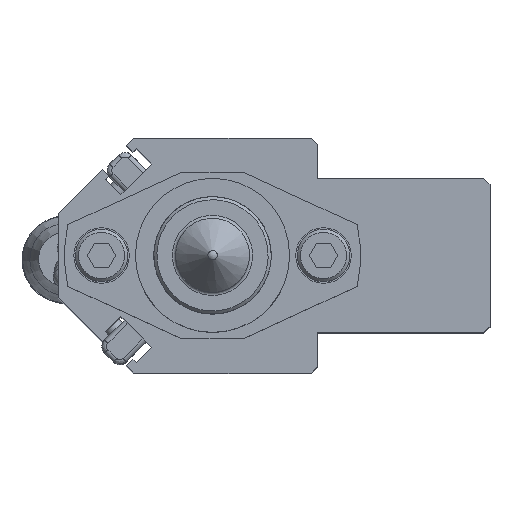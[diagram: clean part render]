
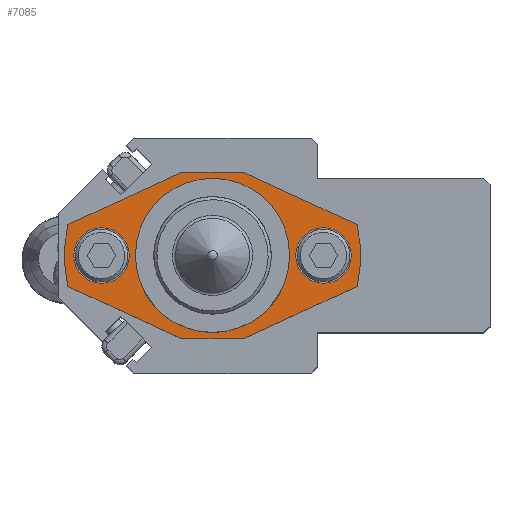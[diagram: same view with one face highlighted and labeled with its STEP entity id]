
A CAD part, top view. The second image highlights one B-rep face of the part: STEP entity #7085.
In plain terms, the highlighted planar face has unit normal (0, 0, 1).
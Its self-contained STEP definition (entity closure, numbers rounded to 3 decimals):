
#408=FACE_BOUND('',#1111,.T.);
#409=FACE_BOUND('',#1112,.T.);
#410=FACE_BOUND('',#1113,.T.);
#490=PLANE('',#7856);
#705=FACE_OUTER_BOUND('',#1110,.T.);
#1110=EDGE_LOOP('',(#4935,#4936,#4937,#4938,#4939,#4940,#4941,#4942));
#1111=EDGE_LOOP('',(#4943));
#1112=EDGE_LOOP('',(#4944));
#1113=EDGE_LOOP('',(#4945));
#1587=LINE('',#10877,#2157);
#1590=LINE('',#10883,#2160);
#1591=LINE('',#10884,#2161);
#1592=LINE('',#10886,#2162);
#1593=LINE('',#10888,#2163);
#1594=LINE('',#10889,#2164);
#2157=VECTOR('',#8721,10.);
#2160=VECTOR('',#8726,10.);
#2161=VECTOR('',#8727,10.);
#2162=VECTOR('',#8728,10.);
#2163=VECTOR('',#8729,10.);
#2164=VECTOR('',#8730,10.);
#2711=CIRCLE('',#7851,23.999);
#2713=CIRCLE('',#7854,23.999);
#2714=CIRCLE('',#7857,12.5);
#2715=CIRCLE('',#7858,2.75);
#2716=CIRCLE('',#7859,2.75);
#3121=VERTEX_POINT('',#10861);
#3122=VERTEX_POINT('',#10863);
#3125=VERTEX_POINT('',#10870);
#3126=VERTEX_POINT('',#10872);
#3127=VERTEX_POINT('',#10876);
#3129=VERTEX_POINT('',#10882);
#3130=VERTEX_POINT('',#10885);
#3131=VERTEX_POINT('',#10887);
#3132=VERTEX_POINT('',#10890);
#3133=VERTEX_POINT('',#10892);
#3134=VERTEX_POINT('',#10894);
#3839=EDGE_CURVE('',#3122,#3121,#2711,.T.);
#3843=EDGE_CURVE('',#3126,#3125,#2713,.T.);
#3845=EDGE_CURVE('',#3127,#3126,#1587,.T.);
#3848=EDGE_CURVE('',#3121,#3129,#1590,.T.);
#3849=EDGE_CURVE('',#3127,#3129,#1591,.T.);
#3850=EDGE_CURVE('',#3125,#3130,#1592,.T.);
#3851=EDGE_CURVE('',#3131,#3130,#1593,.T.);
#3852=EDGE_CURVE('',#3131,#3122,#1594,.T.);
#3853=EDGE_CURVE('',#3132,#3132,#2714,.T.);
#3854=EDGE_CURVE('',#3133,#3133,#2715,.T.);
#3855=EDGE_CURVE('',#3134,#3134,#2716,.T.);
#4935=ORIENTED_EDGE('',*,*,#3839,.T.);
#4936=ORIENTED_EDGE('',*,*,#3848,.T.);
#4937=ORIENTED_EDGE('',*,*,#3849,.F.);
#4938=ORIENTED_EDGE('',*,*,#3845,.T.);
#4939=ORIENTED_EDGE('',*,*,#3843,.T.);
#4940=ORIENTED_EDGE('',*,*,#3850,.T.);
#4941=ORIENTED_EDGE('',*,*,#3851,.F.);
#4942=ORIENTED_EDGE('',*,*,#3852,.T.);
#4943=ORIENTED_EDGE('',*,*,#3853,.F.);
#4944=ORIENTED_EDGE('',*,*,#3854,.F.);
#4945=ORIENTED_EDGE('',*,*,#3855,.F.);
#7085=ADVANCED_FACE('',(#705,#408,#409,#410),#490,.F.);
#7851=AXIS2_PLACEMENT_3D('',#10864,#8708,#8709);
#7854=AXIS2_PLACEMENT_3D('',#10873,#8716,#8717);
#7856=AXIS2_PLACEMENT_3D('',#10881,#8724,#8725);
#7857=AXIS2_PLACEMENT_3D('',#10891,#8731,#8732);
#7858=AXIS2_PLACEMENT_3D('',#10893,#8733,#8734);
#7859=AXIS2_PLACEMENT_3D('',#10895,#8735,#8736);
#8708=DIRECTION('center_axis',(0.,0.,1.));
#8709=DIRECTION('ref_axis',(-0.978,0.208,0.));
#8716=DIRECTION('center_axis',(0.,0.,1.));
#8717=DIRECTION('ref_axis',(0.978,-0.208,0.));
#8721=DIRECTION('',(-0.908,-0.418,0.));
#8724=DIRECTION('center_axis',(0.,0.,-1.));
#8725=DIRECTION('ref_axis',(-1.,0.,0.));
#8726=DIRECTION('',(-0.908,0.418,0.));
#8727=DIRECTION('',(1.,0.,0.));
#8728=DIRECTION('',(0.908,-0.418,0.));
#8729=DIRECTION('',(-1.,0.,0.));
#8730=DIRECTION('',(0.908,0.418,0.));
#8731=DIRECTION('center_axis',(0.,0.,1.));
#8732=DIRECTION('ref_axis',(-1.,0.,0.));
#8733=DIRECTION('center_axis',(0.,0.,1.));
#8734=DIRECTION('ref_axis',(1.,0.,0.));
#8735=DIRECTION('center_axis',(0.,0.,1.));
#8736=DIRECTION('ref_axis',(1.,0.,0.));
#10861=CARTESIAN_POINT('',(23.473,4.998,6.));
#10863=CARTESIAN_POINT('',(23.473,-4.998,6.));
#10864=CARTESIAN_POINT('Origin',(0.,0.,6.));
#10870=CARTESIAN_POINT('',(-23.473,-4.998,6.));
#10872=CARTESIAN_POINT('',(-23.473,4.998,6.));
#10873=CARTESIAN_POINT('Origin',(0.,0.,6.));
#10876=CARTESIAN_POINT('',(-5.,13.5,6.));
#10877=CARTESIAN_POINT('',(-15.001,8.897,6.));
#10881=CARTESIAN_POINT('Origin',(0.,0.,6.));
#10882=CARTESIAN_POINT('',(5.,13.5,6.));
#10883=CARTESIAN_POINT('',(15.001,8.897,6.));
#10884=CARTESIAN_POINT('',(12.,13.5,6.));
#10885=CARTESIAN_POINT('',(-5.,-13.5,6.));
#10886=CARTESIAN_POINT('',(-15.001,-8.897,6.));
#10887=CARTESIAN_POINT('',(5.,-13.5,6.));
#10888=CARTESIAN_POINT('',(-12.,-13.5,6.));
#10889=CARTESIAN_POINT('',(15.001,-8.897,6.));
#10890=CARTESIAN_POINT('',(12.5,0.,6.));
#10891=CARTESIAN_POINT('Origin',(0.,0.,6.));
#10892=CARTESIAN_POINT('',(15.25,0.,6.));
#10893=CARTESIAN_POINT('Origin',(18.,0.,6.));
#10894=CARTESIAN_POINT('',(-20.75,0.,6.));
#10895=CARTESIAN_POINT('Origin',(-18.,0.,6.));
